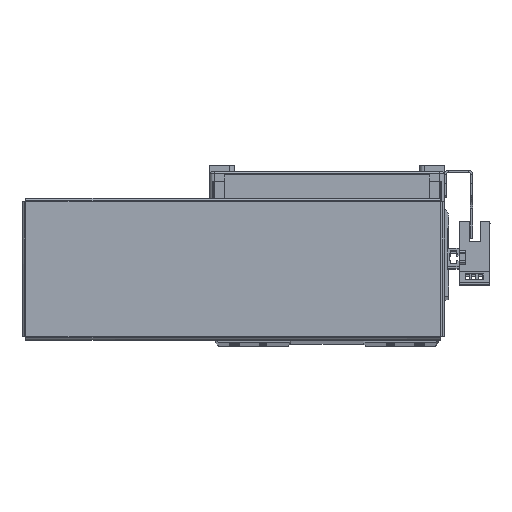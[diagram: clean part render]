
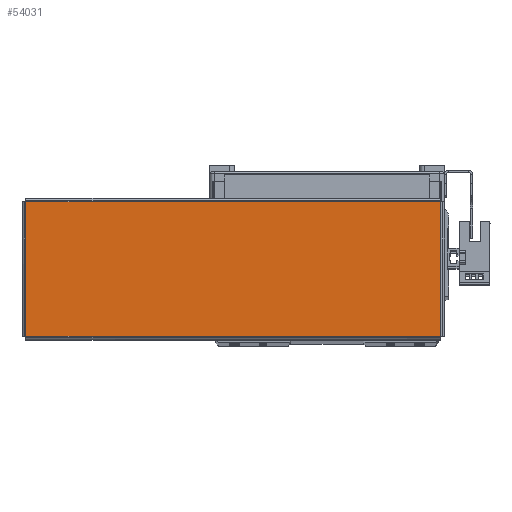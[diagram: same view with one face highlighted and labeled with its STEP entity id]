
A CAD part, top view. The second image highlights one B-rep face of the part: STEP entity #54031.
In plain terms, the highlighted planar face has unit normal (0, 0, 1) as drawn and (0, -1, 0) by its records, which use the part's own axes.
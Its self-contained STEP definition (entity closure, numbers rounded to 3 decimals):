
#9344 = EDGE_CURVE ( 'NONE', #9607, #9604, #28813, .T. ) ;
#9398 = EDGE_CURVE ( 'NONE', #9615, #9607, #28882, .T. ) ;
#9407 = EDGE_CURVE ( 'NONE', #9597, #9615, #28945, .T. ) ;
#9409 = EDGE_CURVE ( 'NONE', #9604, #9597, #28924, .T. ) ;
#9597 = VERTEX_POINT ( 'NONE', #25833 ) ;
#9604 = VERTEX_POINT ( 'NONE', #25846 ) ;
#9607 = VERTEX_POINT ( 'NONE', #25855 ) ;
#9615 = VERTEX_POINT ( 'NONE', #25865 ) ;
#10013 = FACE_OUTER_BOUND ( 'NONE', #43281, .T. ) ;
#14656 = DIRECTION ( 'NONE',  ( 0., 1., 0. ) ) ;
#14665 = DIRECTION ( 'NONE',  ( 0., 0., 1. ) ) ;
#14679 = PLANE ( 'NONE',  #18597 ) ;
#14699 = CARTESIAN_POINT ( 'NONE',  ( 0., -1., 0. ) ) ;
#15412 = ORIENTED_EDGE ( 'NONE', *, *, #9398, .T. ) ;
#15459 = ORIENTED_EDGE ( 'NONE', *, *, #9344, .T. ) ;
#18597 = AXIS2_PLACEMENT_3D ( 'NONE', #14699, #14656, #14665 ) ;
#24912 = DIRECTION ( 'NONE',  ( 0., 0., 1. ) ) ;
#24919 = DIRECTION ( 'NONE',  ( 1., 0., 0. ) ) ;
#24935 = CARTESIAN_POINT ( 'NONE',  ( 91.863, -1., -29.793 ) ) ;
#24951 = CARTESIAN_POINT ( 'NONE',  ( -91.893, -1., -29.763 ) ) ;
#24952 = CARTESIAN_POINT ( 'NONE',  ( -91.863, -1., 29.793 ) ) ;
#24959 = DIRECTION ( 'NONE',  ( 0., 0., -1. ) ) ;
#25833 = CARTESIAN_POINT ( 'NONE',  ( -91.863, -1., -29.763 ) ) ;
#25846 = CARTESIAN_POINT ( 'NONE',  ( -91.863, -1., 29.763 ) ) ;
#25855 = CARTESIAN_POINT ( 'NONE',  ( 91.863, -1., 29.763 ) ) ;
#25865 = CARTESIAN_POINT ( 'NONE',  ( 91.863, -1., -29.763 ) ) ;
#28784 = VECTOR ( 'NONE', #32385, 1000. ) ;
#28813 = LINE ( 'NONE', #32355, #28784 ) ;
#28852 = VECTOR ( 'NONE', #24912, 1000. ) ;
#28882 = LINE ( 'NONE', #24935, #28852 ) ;
#28902 = VECTOR ( 'NONE', #24959, 1000. ) ;
#28922 = VECTOR ( 'NONE', #24919, 1000. ) ;
#28924 = LINE ( 'NONE', #24952, #28902 ) ;
#28945 = LINE ( 'NONE', #24951, #28922 ) ;
#32355 = CARTESIAN_POINT ( 'NONE',  ( 91.893, -1., 29.763 ) ) ;
#32385 = DIRECTION ( 'NONE',  ( -1., 0., 0. ) ) ;
#43281 = EDGE_LOOP ( 'NONE', ( #57083, #15412, #15459, #57080 ) ) ;
#54031 = ADVANCED_FACE ( 'NONE', ( #10013 ), #14679, .F. ) ;
#57080 = ORIENTED_EDGE ( 'NONE', *, *, #9409, .T. ) ;
#57083 = ORIENTED_EDGE ( 'NONE', *, *, #9407, .T. ) ;
